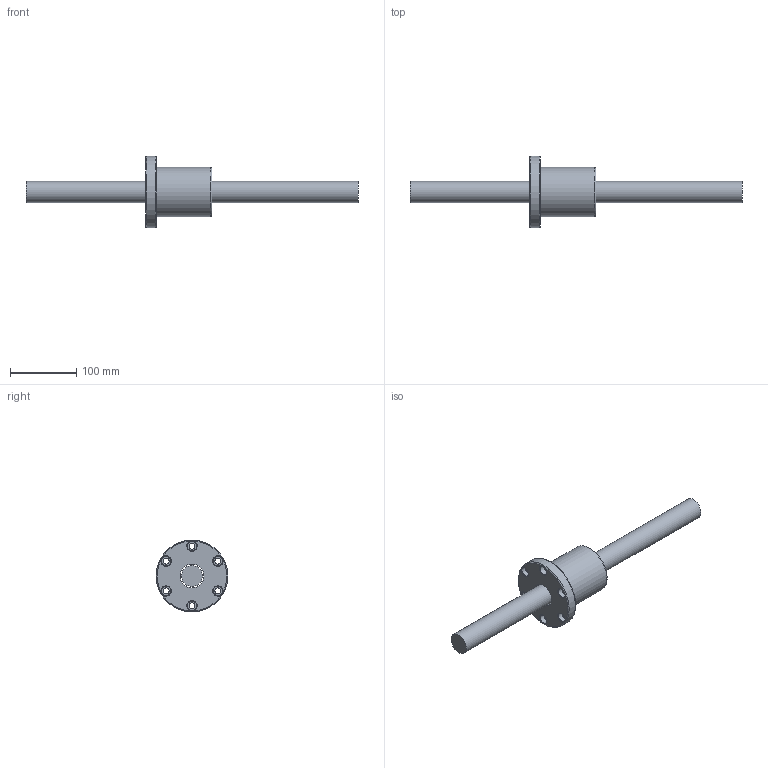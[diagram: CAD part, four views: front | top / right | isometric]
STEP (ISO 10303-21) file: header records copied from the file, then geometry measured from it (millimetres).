
FILE_DESCRIPTION (( 'STEP AP203' ), '1' );
FILE_NAME ('SFV03220N-2.7.step', '2024-05-20T03:39:26', ( '' ), ( '' ), 'SwSTEP 2.0', 'SolidWorks 2022', '' );
FILE_SCHEMA (( 'CONFIG_CONTROL_DESIGN' ));
Length unit declared in the file: millimetre
Products named in the file (1): SFV03220N-2.7
Bounding box: 500 x 108 x 108 mm (x, y, z)
Volume: 800263.5 mm3; surface area: 106998.2 mm2
Topology: 2 solids, 2 shells, 57 faces, 147 edges, 95 vertices
Faces by surface type: cylinder 24, cone 13, plane 12, bspline 5, torus 3
Full cylindrical faces by diameter (mm): 4 x1, 7 x6, 9 x6, 14 x6, 32 x1, 35.7 x1, 74.2 x1, 108 x1
Entity records: 3796 total; most frequent: CARTESIAN_POINT 2739, DIRECTION 204, ORIENTED_EDGE 152, EDGE_LOOP 102, AXIS2_PLACEMENT_3D 101, EDGE_CURVE 76, FACE_OUTER_BOUND 72, VERTEX_POINT 66
